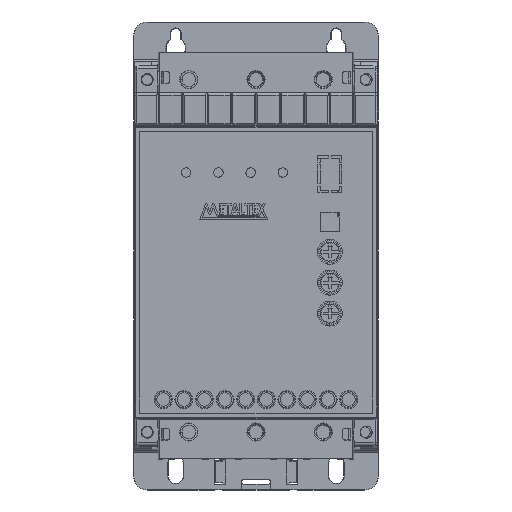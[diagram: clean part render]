
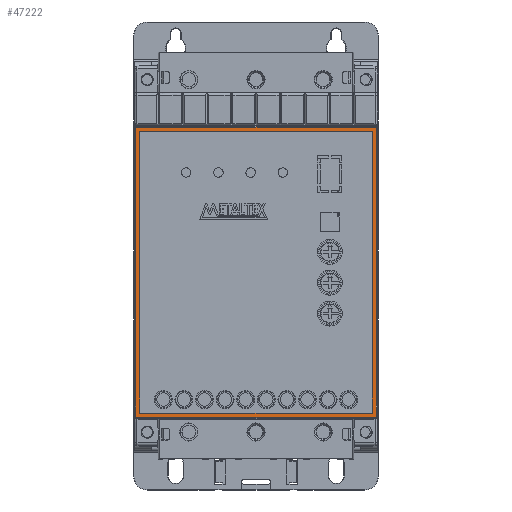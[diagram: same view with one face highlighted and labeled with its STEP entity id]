
A CAD part, top view. The second image highlights one B-rep face of the part: STEP entity #47222.
In plain terms, the highlighted planar face has unit normal (0, 0, 1).
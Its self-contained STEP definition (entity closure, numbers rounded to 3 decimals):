
#24619 = PLANE('',#24620);
#24620 = AXIS2_PLACEMENT_3D('',#24621,#24622,#24623);
#24621 = CARTESIAN_POINT('',(-106.7,-51.8,72.9));
#24622 = DIRECTION('',(-0.999,0.,0.035));
#24623 = DIRECTION('',(0.035,0.,0.999));
#24647 = PLANE('',#24648);
#24648 = AXIS2_PLACEMENT_3D('',#24649,#24650,#24651);
#24649 = CARTESIAN_POINT('',(-109.5,52.7,72.9));
#24650 = DIRECTION('',(0.,-0.999,0.035));
#24651 = DIRECTION('',(0.,-0.035,-0.999));
#24675 = PLANE('',#24676);
#24676 = AXIS2_PLACEMENT_3D('',#24677,#24678,#24679);
#24677 = CARTESIAN_POINT('',(-193.3,1.2,72.9));
#24678 = DIRECTION('',(0.999,0.,0.035));
#24679 = DIRECTION('',(0.035,0.,-0.999));
#24701 = PLANE('',#24702);
#24702 = AXIS2_PLACEMENT_3D('',#24703,#24704,#24705);
#24703 = CARTESIAN_POINT('',(-190.5,-52.2,72.9));
#24704 = DIRECTION('',(0.,0.999,0.035));
#24705 = DIRECTION('',(0.,-0.035,0.999));
#43752 = PLANE('',#43753);
#43753 = AXIS2_PLACEMENT_3D('',#43754,#43755,#43756);
#43754 = CARTESIAN_POINT('',(-150.,-53.95,73.15));
#43755 = DIRECTION('',(0.,-0.707,0.707));
#43756 = DIRECTION('',(0.,-0.707,-0.707));
#43847 = VERTEX_POINT('',#43848);
#43848 = CARTESIAN_POINT('',(-194.8,-53.7,73.4));
#43862 = PLANE('',#43863);
#43863 = AXIS2_PLACEMENT_3D('',#43864,#43865,#43866);
#43864 = CARTESIAN_POINT('',(-195.05,1.2,73.15));
#43865 = DIRECTION('',(-0.707,0.,0.707));
#43866 = DIRECTION('',(0.707,0.,0.707));
#43920 = VERTEX_POINT('',#43921);
#43921 = CARTESIAN_POINT('',(-105.2,-53.7,73.4));
#43935 = PLANE('',#43936);
#43936 = AXIS2_PLACEMENT_3D('',#43937,#43938,#43939);
#43937 = CARTESIAN_POINT('',(-104.95,1.2,73.15));
#43938 = DIRECTION('',(0.707,0.,0.707));
#43939 = DIRECTION('',(0.707,0.,-0.707));
#43947 = EDGE_CURVE('',#43847,#43920,#43948,.T.);
#43948 = SURFACE_CURVE('',#43949,(#43953,#43960),.PCURVE_S1.);
#43949 = LINE('',#43950,#43951);
#43950 = CARTESIAN_POINT('',(-192.,-53.7,73.4));
#43951 = VECTOR('',#43952,1.);
#43952 = DIRECTION('',(1.,0.,0.));
#43953 = PCURVE('',#43752,#43954);
#43954 = DEFINITIONAL_REPRESENTATION('',(#43955),#43959);
#43955 = LINE('',#43956,#43957);
#43956 = CARTESIAN_POINT('',(-0.354,-42.));
#43957 = VECTOR('',#43958,1.);
#43958 = DIRECTION('',(0.,1.));
#43959 = ( GEOMETRIC_REPRESENTATION_CONTEXT(2) 
PARAMETRIC_REPRESENTATION_CONTEXT() REPRESENTATION_CONTEXT('2D SPACE',''
  ) );
#43960 = PCURVE('',#43961,#43966);
#43961 = PLANE('',#43962);
#43962 = AXIS2_PLACEMENT_3D('',#43963,#43964,#43965);
#43963 = CARTESIAN_POINT('',(-150.,1.2,73.4));
#43964 = DIRECTION('',(0.,0.,1.));
#43965 = DIRECTION('',(1.,0.,-0.));
#43966 = DEFINITIONAL_REPRESENTATION('',(#43967),#43971);
#43967 = LINE('',#43968,#43969);
#43968 = CARTESIAN_POINT('',(-42.,-54.9));
#43969 = VECTOR('',#43970,1.);
#43970 = DIRECTION('',(1.,0.));
#43971 = ( GEOMETRIC_REPRESENTATION_CONTEXT(2) 
PARAMETRIC_REPRESENTATION_CONTEXT() REPRESENTATION_CONTEXT('2D SPACE',''
  ) );
#43977 = VERTEX_POINT('',#43978);
#43978 = CARTESIAN_POINT('',(-106.683,-52.217,73.4));
#44001 = VERTEX_POINT('',#44002);
#44002 = CARTESIAN_POINT('',(-193.317,-52.217,73.4));
#44023 = EDGE_CURVE('',#44001,#43977,#44024,.T.);
#44024 = SURFACE_CURVE('',#44025,(#44029,#44036),.PCURVE_S1.);
#44025 = LINE('',#44026,#44027);
#44026 = CARTESIAN_POINT('',(-150.,-52.217,73.4));
#44027 = VECTOR('',#44028,1.);
#44028 = DIRECTION('',(1.,0.,0.));
#44029 = PCURVE('',#24701,#44030);
#44030 = DEFINITIONAL_REPRESENTATION('',(#44031),#44035);
#44031 = LINE('',#44032,#44033);
#44032 = CARTESIAN_POINT('',(0.5,40.5));
#44033 = VECTOR('',#44034,1.);
#44034 = DIRECTION('',(0.,1.));
#44035 = ( GEOMETRIC_REPRESENTATION_CONTEXT(2) 
PARAMETRIC_REPRESENTATION_CONTEXT() REPRESENTATION_CONTEXT('2D SPACE',''
  ) );
#44036 = PCURVE('',#43961,#44037);
#44037 = DEFINITIONAL_REPRESENTATION('',(#44038),#44042);
#44038 = LINE('',#44039,#44040);
#44039 = CARTESIAN_POINT('',(0.,-53.417));
#44040 = VECTOR('',#44041,1.);
#44041 = DIRECTION('',(1.,0.));
#44042 = ( GEOMETRIC_REPRESENTATION_CONTEXT(2) 
PARAMETRIC_REPRESENTATION_CONTEXT() REPRESENTATION_CONTEXT('2D SPACE',''
  ) );
#46827 = EDGE_CURVE('',#43977,#46828,#46830,.T.);
#46828 = VERTEX_POINT('',#46829);
#46829 = CARTESIAN_POINT('',(-106.683,52.717,73.4));
#46830 = SURFACE_CURVE('',#46831,(#46835,#46842),.PCURVE_S1.);
#46831 = LINE('',#46832,#46833);
#46832 = CARTESIAN_POINT('',(-106.683,1.2,73.4));
#46833 = VECTOR('',#46834,1.);
#46834 = DIRECTION('',(0.,1.,0.));
#46835 = PCURVE('',#24619,#46836);
#46836 = DEFINITIONAL_REPRESENTATION('',(#46837),#46841);
#46837 = LINE('',#46838,#46839);
#46838 = CARTESIAN_POINT('',(0.5,53.));
#46839 = VECTOR('',#46840,1.);
#46840 = DIRECTION('',(0.,1.));
#46841 = ( GEOMETRIC_REPRESENTATION_CONTEXT(2) 
PARAMETRIC_REPRESENTATION_CONTEXT() REPRESENTATION_CONTEXT('2D SPACE',''
  ) );
#46842 = PCURVE('',#43961,#46843);
#46843 = DEFINITIONAL_REPRESENTATION('',(#46844),#46848);
#46844 = LINE('',#46845,#46846);
#46845 = CARTESIAN_POINT('',(43.317,0.));
#46846 = VECTOR('',#46847,1.);
#46847 = DIRECTION('',(0.,1.));
#46848 = ( GEOMETRIC_REPRESENTATION_CONTEXT(2) 
PARAMETRIC_REPRESENTATION_CONTEXT() REPRESENTATION_CONTEXT('2D SPACE',''
  ) );
#46929 = VERTEX_POINT('',#46930);
#46930 = CARTESIAN_POINT('',(-105.2,54.2,73.4));
#46944 = PLANE('',#46945);
#46945 = AXIS2_PLACEMENT_3D('',#46946,#46947,#46948);
#46946 = CARTESIAN_POINT('',(-150.,54.45,73.15));
#46947 = DIRECTION('',(0.,0.707,0.707));
#46948 = DIRECTION('',(0.,-0.707,0.707));
#46956 = EDGE_CURVE('',#43920,#46929,#46957,.T.);
#46957 = SURFACE_CURVE('',#46958,(#46962,#46969),.PCURVE_S1.);
#46958 = LINE('',#46959,#46960);
#46959 = CARTESIAN_POINT('',(-105.2,-53.3,73.4));
#46960 = VECTOR('',#46961,1.);
#46961 = DIRECTION('',(0.,1.,0.));
#46962 = PCURVE('',#43935,#46963);
#46963 = DEFINITIONAL_REPRESENTATION('',(#46964),#46968);
#46964 = LINE('',#46965,#46966);
#46965 = CARTESIAN_POINT('',(-0.354,-54.5));
#46966 = VECTOR('',#46967,1.);
#46967 = DIRECTION('',(0.,1.));
#46968 = ( GEOMETRIC_REPRESENTATION_CONTEXT(2) 
PARAMETRIC_REPRESENTATION_CONTEXT() REPRESENTATION_CONTEXT('2D SPACE',''
  ) );
#46969 = PCURVE('',#43961,#46970);
#46970 = DEFINITIONAL_REPRESENTATION('',(#46971),#46975);
#46971 = LINE('',#46972,#46973);
#46972 = CARTESIAN_POINT('',(44.8,-54.5));
#46973 = VECTOR('',#46974,1.);
#46974 = DIRECTION('',(0.,1.));
#46975 = ( GEOMETRIC_REPRESENTATION_CONTEXT(2) 
PARAMETRIC_REPRESENTATION_CONTEXT() REPRESENTATION_CONTEXT('2D SPACE',''
  ) );
#47108 = EDGE_CURVE('',#47109,#43847,#47111,.T.);
#47109 = VERTEX_POINT('',#47110);
#47110 = CARTESIAN_POINT('',(-194.8,54.2,73.4));
#47111 = SURFACE_CURVE('',#47112,(#47116,#47123),.PCURVE_S1.);
#47112 = LINE('',#47113,#47114);
#47113 = CARTESIAN_POINT('',(-194.8,55.7,73.4));
#47114 = VECTOR('',#47115,1.);
#47115 = DIRECTION('',(0.,-1.,0.));
#47116 = PCURVE('',#43862,#47117);
#47117 = DEFINITIONAL_REPRESENTATION('',(#47118),#47122);
#47118 = LINE('',#47119,#47120);
#47119 = CARTESIAN_POINT('',(0.354,54.5));
#47120 = VECTOR('',#47121,1.);
#47121 = DIRECTION('',(0.,-1.));
#47122 = ( GEOMETRIC_REPRESENTATION_CONTEXT(2) 
PARAMETRIC_REPRESENTATION_CONTEXT() REPRESENTATION_CONTEXT('2D SPACE',''
  ) );
#47123 = PCURVE('',#43961,#47124);
#47124 = DEFINITIONAL_REPRESENTATION('',(#47125),#47129);
#47125 = LINE('',#47126,#47127);
#47126 = CARTESIAN_POINT('',(-44.8,54.5));
#47127 = VECTOR('',#47128,1.);
#47128 = DIRECTION('',(0.,-1.));
#47129 = ( GEOMETRIC_REPRESENTATION_CONTEXT(2) 
PARAMETRIC_REPRESENTATION_CONTEXT() REPRESENTATION_CONTEXT('2D SPACE',''
  ) );
#47222 = ADVANCED_FACE('',(#47223,#47271),#43961,.T.);
#47223 = FACE_BOUND('',#47224,.T.);
#47224 = EDGE_LOOP('',(#47225,#47248,#47269,#47270));
#47225 = ORIENTED_EDGE('',*,*,#47226,.F.);
#47226 = EDGE_CURVE('',#47227,#44001,#47229,.T.);
#47227 = VERTEX_POINT('',#47228);
#47228 = CARTESIAN_POINT('',(-193.317,52.717,73.4));
#47229 = SURFACE_CURVE('',#47230,(#47234,#47241),.PCURVE_S1.);
#47230 = LINE('',#47231,#47232);
#47231 = CARTESIAN_POINT('',(-193.317,1.2,73.4));
#47232 = VECTOR('',#47233,1.);
#47233 = DIRECTION('',(0.,-1.,0.));
#47234 = PCURVE('',#43961,#47235);
#47235 = DEFINITIONAL_REPRESENTATION('',(#47236),#47240);
#47236 = LINE('',#47237,#47238);
#47237 = CARTESIAN_POINT('',(-43.317,0.));
#47238 = VECTOR('',#47239,1.);
#47239 = DIRECTION('',(0.,-1.));
#47240 = ( GEOMETRIC_REPRESENTATION_CONTEXT(2) 
PARAMETRIC_REPRESENTATION_CONTEXT() REPRESENTATION_CONTEXT('2D SPACE',''
  ) );
#47241 = PCURVE('',#24675,#47242);
#47242 = DEFINITIONAL_REPRESENTATION('',(#47243),#47247);
#47243 = LINE('',#47244,#47245);
#47244 = CARTESIAN_POINT('',(-0.5,0.));
#47245 = VECTOR('',#47246,1.);
#47246 = DIRECTION('',(0.,-1.));
#47247 = ( GEOMETRIC_REPRESENTATION_CONTEXT(2) 
PARAMETRIC_REPRESENTATION_CONTEXT() REPRESENTATION_CONTEXT('2D SPACE',''
  ) );
#47248 = ORIENTED_EDGE('',*,*,#47249,.F.);
#47249 = EDGE_CURVE('',#46828,#47227,#47250,.T.);
#47250 = SURFACE_CURVE('',#47251,(#47255,#47262),.PCURVE_S1.);
#47251 = LINE('',#47252,#47253);
#47252 = CARTESIAN_POINT('',(-150.,52.717,73.4));
#47253 = VECTOR('',#47254,1.);
#47254 = DIRECTION('',(-1.,0.,0.));
#47255 = PCURVE('',#43961,#47256);
#47256 = DEFINITIONAL_REPRESENTATION('',(#47257),#47261);
#47257 = LINE('',#47258,#47259);
#47258 = CARTESIAN_POINT('',(0.,51.517));
#47259 = VECTOR('',#47260,1.);
#47260 = DIRECTION('',(-1.,0.));
#47261 = ( GEOMETRIC_REPRESENTATION_CONTEXT(2) 
PARAMETRIC_REPRESENTATION_CONTEXT() REPRESENTATION_CONTEXT('2D SPACE',''
  ) );
#47262 = PCURVE('',#24647,#47263);
#47263 = DEFINITIONAL_REPRESENTATION('',(#47264),#47268);
#47264 = LINE('',#47265,#47266);
#47265 = CARTESIAN_POINT('',(-0.5,-40.5));
#47266 = VECTOR('',#47267,1.);
#47267 = DIRECTION('',(-0.,-1.));
#47268 = ( GEOMETRIC_REPRESENTATION_CONTEXT(2) 
PARAMETRIC_REPRESENTATION_CONTEXT() REPRESENTATION_CONTEXT('2D SPACE',''
  ) );
#47269 = ORIENTED_EDGE('',*,*,#46827,.F.);
#47270 = ORIENTED_EDGE('',*,*,#44023,.F.);
#47271 = FACE_BOUND('',#47272,.T.);
#47272 = EDGE_LOOP('',(#47273,#47294,#47295,#47296));
#47273 = ORIENTED_EDGE('',*,*,#47274,.T.);
#47274 = EDGE_CURVE('',#46929,#47109,#47275,.T.);
#47275 = SURFACE_CURVE('',#47276,(#47280,#47287),.PCURVE_S1.);
#47276 = LINE('',#47277,#47278);
#47277 = CARTESIAN_POINT('',(-108.,54.2,73.4));
#47278 = VECTOR('',#47279,1.);
#47279 = DIRECTION('',(-1.,0.,0.));
#47280 = PCURVE('',#43961,#47281);
#47281 = DEFINITIONAL_REPRESENTATION('',(#47282),#47286);
#47282 = LINE('',#47283,#47284);
#47283 = CARTESIAN_POINT('',(42.,53.));
#47284 = VECTOR('',#47285,1.);
#47285 = DIRECTION('',(-1.,0.));
#47286 = ( GEOMETRIC_REPRESENTATION_CONTEXT(2) 
PARAMETRIC_REPRESENTATION_CONTEXT() REPRESENTATION_CONTEXT('2D SPACE',''
  ) );
#47287 = PCURVE('',#46944,#47288);
#47288 = DEFINITIONAL_REPRESENTATION('',(#47289),#47293);
#47289 = LINE('',#47290,#47291);
#47290 = CARTESIAN_POINT('',(0.354,42.));
#47291 = VECTOR('',#47292,1.);
#47292 = DIRECTION('',(0.,-1.));
#47293 = ( GEOMETRIC_REPRESENTATION_CONTEXT(2) 
PARAMETRIC_REPRESENTATION_CONTEXT() REPRESENTATION_CONTEXT('2D SPACE',''
  ) );
#47294 = ORIENTED_EDGE('',*,*,#47108,.T.);
#47295 = ORIENTED_EDGE('',*,*,#43947,.T.);
#47296 = ORIENTED_EDGE('',*,*,#46956,.T.);
